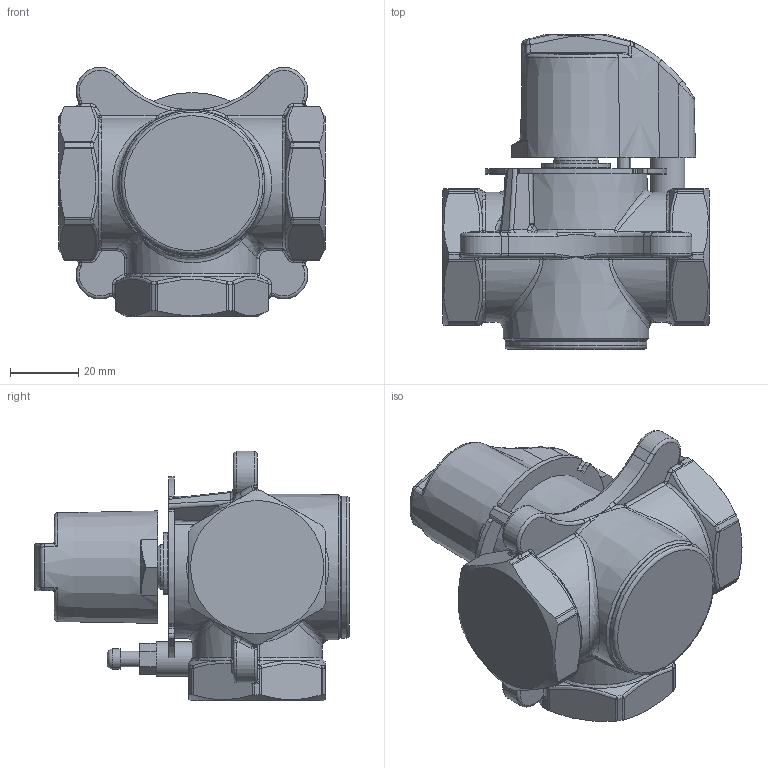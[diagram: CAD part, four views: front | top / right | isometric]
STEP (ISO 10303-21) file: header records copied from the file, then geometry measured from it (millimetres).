
FILE_DESCRIPTION(('STEP AP203'), '1');
FILE_NAME('VT.MIX03.G.06', '2025-11-14T13:48:31', ('verevichevva'), ('Vesta'), 'C3D Converter', 'C3D Toolkit', '');
FILE_SCHEMA(('CONFIG_CONTROL_DESIGN'));
Length unit declared in the file: millimetre
Products named in the file (1): Parte4
Bounding box: 78 x 92.1 x 72.84 mm (x, y, z)
Volume: 194237.1 mm3; surface area: 29933.7 mm2
Topology: 1 solids, 1 shells, 747 faces, 1875 edges, 1128 vertices
Faces by surface type: bspline 247, plane 199, cylinder 167, torus 53, cone 43, sphere 38
Full cylindrical faces by diameter (mm): 4.5 x1, 6 x1, 10 x2, 13 x1, 41.5 x1
Entity records: 45822 total; most frequent: CARTESIAN_POINT 30172, ORIENTED_EDGE 3666, DIRECTION 2514, EDGE_CURVE 1833, VERTEX_POINT 1127, AXIS2_PLACEMENT_3D 941, EDGE_LOOP 792, FACE_BOUND 775
